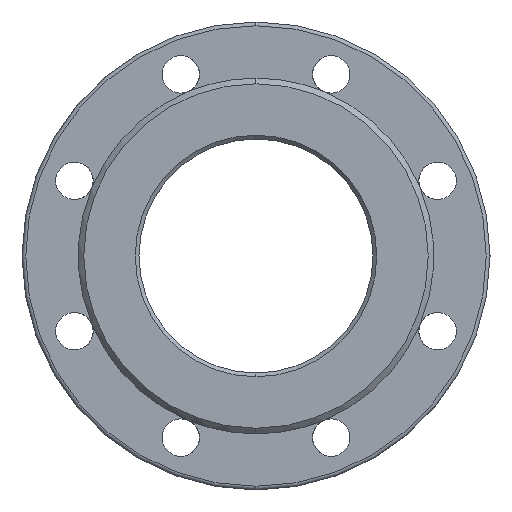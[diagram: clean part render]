
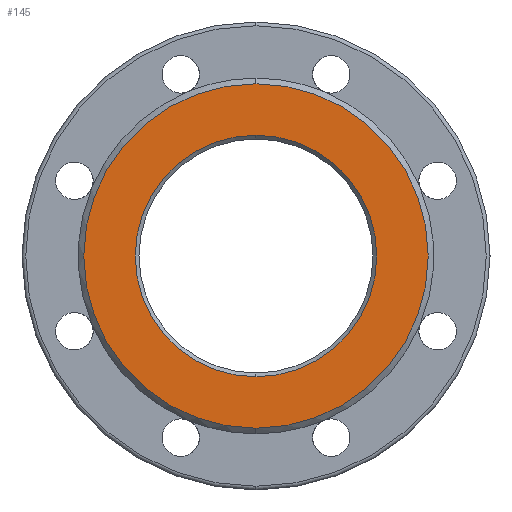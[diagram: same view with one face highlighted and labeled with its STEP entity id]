
A CAD part, left-side view. The second image highlights one B-rep face of the part: STEP entity #145.
In plain terms, the highlighted planar face has unit normal (-1, 0, 0).
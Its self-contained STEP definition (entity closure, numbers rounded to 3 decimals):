
#107 = VERTEX_POINT ( 'NONE', #748 ) ;
#145 = ADVANCED_FACE ( 'Defeatured_0_3', ( #2186, #1477 ), #458, .F. ) ;
#186 = CARTESIAN_POINT ( 'NONE',  ( -250., 0., 0. ) ) ;
#225 = DIRECTION ( 'NONE',  ( -1., 0., 0. ) ) ;
#458 = PLANE ( 'NONE',  #1670 ) ;
#626 = DIRECTION ( 'NONE',  ( 0., 0., 1. ) ) ;
#716 = DIRECTION ( 'NONE',  ( 0., 0., -1. ) ) ;
#748 = CARTESIAN_POINT ( 'NONE',  ( -250., 0., 64.5 ) ) ;
#819 = CARTESIAN_POINT ( 'NONE',  ( -250., 62.5, 0. ) ) ;
#928 = DIRECTION ( 'NONE',  ( -1., 0., 0. ) ) ;
#1299 = ORIENTED_EDGE ( 'NONE', *, *, #3529, .T. ) ;
#1420 = EDGE_LOOP ( 'NONE', ( #3905, #4165 ) ) ;
#1477 = FACE_OUTER_BOUND ( 'NONE', #1420, .T. ) ;
#1566 = DIRECTION ( 'NONE',  ( 0., 0., 1. ) ) ;
#1663 = ORIENTED_EDGE ( 'NONE', *, *, #2225, .T. ) ;
#1670 = AXIS2_PLACEMENT_3D ( 'NONE', #819, #3640, #3343 ) ;
#1791 = CIRCLE ( 'NONE', #3378, 64.5 ) ;
#1796 = AXIS2_PLACEMENT_3D ( 'NONE', #186, #928, #1566 ) ;
#1826 = CARTESIAN_POINT ( 'NONE',  ( -250., 0., -92. ) ) ;
#1857 = CARTESIAN_POINT ( 'NONE',  ( -250., 0., 0. ) ) ;
#2186 = FACE_BOUND ( 'NONE', #4657, .T. ) ;
#2210 = DIRECTION ( 'NONE',  ( 1., 0., 0. ) ) ;
#2225 = EDGE_CURVE ( 'Defeatured_0_3+Defeatured_0_20+Defeatured_0_20+Defeatured_0_20', #107, #4278, #4037, .T. ) ;
#2432 = EDGE_CURVE ( 'Defeatured_0_3+Defeatured_0_4+Defeatured_0_4+Defeatured_0_4', #2992, #3305, #2686, .T. ) ;
#2438 = CARTESIAN_POINT ( 'NONE',  ( -250., 0., 0. ) ) ;
#2586 = CARTESIAN_POINT ( 'NONE',  ( -250., 0., 92. ) ) ;
#2686 = CIRCLE ( 'NONE', #3884, 92. ) ;
#2992 = VERTEX_POINT ( 'NONE', #1826 ) ;
#3287 = CARTESIAN_POINT ( 'NONE',  ( -250., 0., -64.5 ) ) ;
#3305 = VERTEX_POINT ( 'NONE', #2586 ) ;
#3343 = DIRECTION ( 'NONE',  ( 0., 0., -1. ) ) ;
#3378 = AXIS2_PLACEMENT_3D ( 'NONE', #2438, #3896, #716 ) ;
#3529 = EDGE_CURVE ( 'Defeatured_0_3+Defeatured_0_20+Defeatured_0_20+Defeatured_0_20', #4278, #107, #1791, .T. ) ;
#3640 = DIRECTION ( 'NONE',  ( 1., 0., 0. ) ) ;
#3669 = DIRECTION ( 'NONE',  ( 0., 0., -1. ) ) ;
#3830 = CIRCLE ( 'NONE', #1796, 92. ) ;
#3884 = AXIS2_PLACEMENT_3D ( 'NONE', #4485, #225, #626 ) ;
#3896 = DIRECTION ( 'NONE',  ( 1., 0., 0. ) ) ;
#3905 = ORIENTED_EDGE ( 'NONE', *, *, #2432, .T. ) ;
#4037 = CIRCLE ( 'NONE', #4257, 64.5 ) ;
#4165 = ORIENTED_EDGE ( 'NONE', *, *, #4359, .T. ) ;
#4257 = AXIS2_PLACEMENT_3D ( 'NONE', #1857, #2210, #3669 ) ;
#4278 = VERTEX_POINT ( 'NONE', #3287 ) ;
#4359 = EDGE_CURVE ( 'Defeatured_0_3+Defeatured_0_4+Defeatured_0_4+Defeatured_0_4', #3305, #2992, #3830, .T. ) ;
#4485 = CARTESIAN_POINT ( 'NONE',  ( -250., 0., 0. ) ) ;
#4657 = EDGE_LOOP ( 'NONE', ( #1663, #1299 ) ) ;
